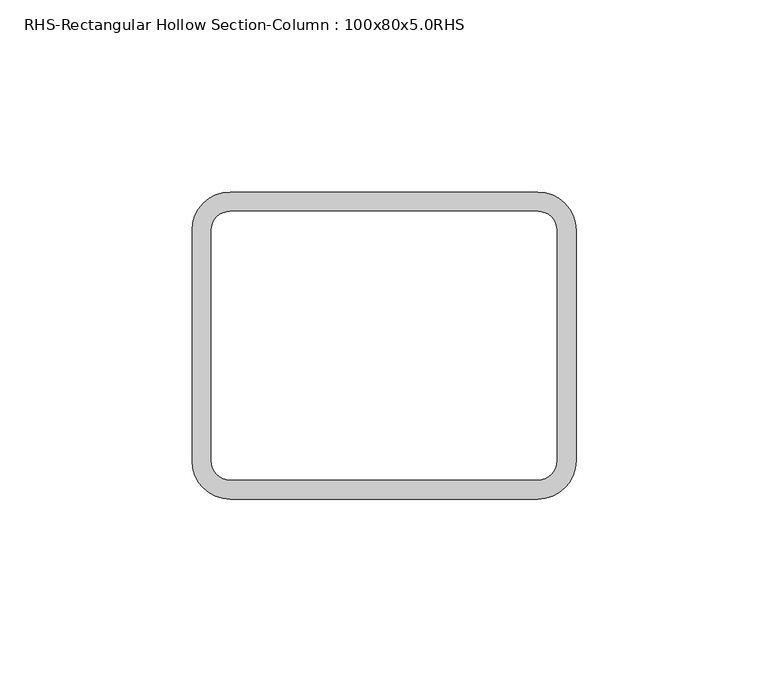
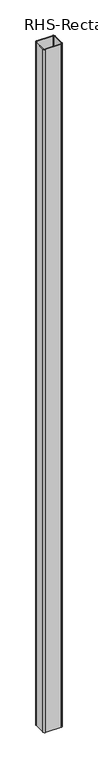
"""IFC4 building model written with IfcOpenShell, lengths in millimetres: column geometry, RHS-Rectangular Hollow Section-Column : 100x80x5.0RHS."""

import ifcopenshell
import ifcopenshell.guid

model = None  # the IFC model being written
_history = None  # IfcOwnerHistory: only IFC2X3 demands one
_inside = {}  # id of a spatial element -> (the spatial element, [elements in it])
_under = {}  # id of a project, library or spatial element -> (it, [spatial elements below it])
_declared = {}  # id of a project -> (the project, [libraries it declares])
_typed = {}  # id of a type object -> (the type object, [elements of that type])
_made_of = {}  # id of a material, layer set ... -> (it, [elements and type objects made of it])


def new_model(schema):
    """Start an empty IFC model of exactly this schema.

    Asked for "IFC4X3", IfcOpenShell would pick the latest addendum, in which some entities
    have other attributes; the version numbers below select the first issue.
    IFC2X3 requires an IfcOwnerHistory on every rooted entity: one is made here for all.
    """
    global model, _history
    if schema == "IFC4X3":
        model = ifcopenshell.file(schema_version=(4, 3, 0, 0))
    else:
        model = ifcopenshell.file(schema=schema)
    _inside.clear()
    _under.clear()
    _declared.clear()
    _typed.clear()
    _made_of.clear()
    _history = None
    if model.schema == "IFC2X3":
        org = make("IfcOrganization", Name="unknown")
        user = make(
            "IfcPersonAndOrganization",
            ThePerson=make("IfcPerson", FamilyName="unknown"),
            TheOrganization=org,
        )
        app = make(
            "IfcApplication",
            ApplicationDeveloper=org,
            Version="unknown",
            ApplicationFullName="unknown",
            ApplicationIdentifier="unknown",
        )
        _history = make(
            "IfcOwnerHistory",
            OwningUser=user,
            OwningApplication=app,
            ChangeAction="ADDED",
            CreationDate=0,
        )
    return model


def make(cls, **values):
    """One entity of the class cls with the attributes given. An attribute that is None is left unset."""
    return model.create_entity(
        cls, **{name: value for name, value in values.items() if value is not None}
    )


def rooted(cls, **values):
    """An entity with a GlobalId (a new one), such as an element, a storey or a relation."""
    return make(cls, GlobalId=ifcopenshell.guid.new(), OwnerHistory=_history, **values)


def si_unit(unit_type, name, prefix=None):
    """IfcSIUnit, for example si_unit("LENGTHUNIT", "METRE", prefix="MILLI")."""
    return make("IfcSIUnit", UnitType=unit_type, Prefix=prefix, Name=name)


def assignment(units):
    """IfcUnitAssignment: the units of a project."""
    return None if units is None else make("IfcUnitAssignment", Units=units)


def point(xyz):
    """IfcCartesianPoint."""
    return None if xyz is None else make("IfcCartesianPoint", Coordinates=xyz)


def direction(xyz):
    """IfcDirection."""
    return None if xyz is None else make("IfcDirection", DirectionRatios=xyz)


def frame(location, z_axis=None, x_axis=None):
    """IfcAxis2Placement3D, a coordinate frame: its origin and axes. An axis left out is left unset."""
    return make(
        "IfcAxis2Placement3D",
        Location=point(location),
        Axis=direction(z_axis),
        RefDirection=direction(x_axis),
    )


def frame_2d(location, x_axis=None):
    """IfcAxis2Placement2D, a coordinate frame in the plane: its origin and x axis."""
    return make(
        "IfcAxis2Placement2D", Location=point(location), RefDirection=direction(x_axis)
    )


def origin():
    """The frame at (0, 0, 0) with its axes left unset."""
    return frame((0.0, 0.0, 0.0))


def place(relative_to, where):
    """IfcLocalPlacement: puts the frame where relative to a parent placement (None: the world)."""
    return make(
        "IfcLocalPlacement", PlacementRelTo=relative_to, RelativePlacement=where
    )


def context(
    kind, dimensions, precision=None, world=None, true_north=None, identifier=None
):
    """IfcGeometricRepresentationContext, for example the 3D "Model" context."""
    return make(
        "IfcGeometricRepresentationContext",
        ContextIdentifier=identifier,
        ContextType=kind,
        CoordinateSpaceDimension=dimensions,
        Precision=precision,
        WorldCoordinateSystem=world,
        TrueNorth=true_north,
    )


def project(units=None, contexts=None):
    """IfcProject with its units and contexts."""
    return rooted(
        "IfcProject",
        Name="project",
        RepresentationContexts=contexts,
        UnitsInContext=assignment(units),
    )


def spatial(cls, under=None, at=None, **own):
    """A site, building, storey or space (cls), placed at a placement, below another one or the project."""
    s = rooted(cls, ObjectPlacement=at, **own)
    if under is not None:
        _under.setdefault(under.id(), (under, []))[1].append(s)
    return s


def polyline(points):
    """IfcPolyline through the points."""
    return make("IfcPolyline", Points=[point(p) for p in points])


def circle_curve(where, radius):
    """IfcCircle in the frame where."""
    return make("IfcCircle", Position=where, Radius=radius)


def trimmed(basis, trim1, trim2, sense, master):
    """IfcTrimmedCurve: the piece of a basis curve between two trims."""
    return make(
        "IfcTrimmedCurve",
        BasisCurve=basis,
        Trim1=trim1,
        Trim2=trim2,
        SenseAgreement=sense,
        MasterRepresentation=master,
    )


def segment(curve, same_sense, transition):
    """IfcCompositeCurveSegment."""
    return make(
        "IfcCompositeCurveSegment",
        Transition=transition,
        SameSense=same_sense,
        ParentCurve=curve,
    )


def composite_curve(segments, self_intersect=None):
    """IfcCompositeCurve: segments joined end to end."""
    return make("IfcCompositeCurve", Segments=segments, SelfIntersect=self_intersect)


def outline(outer, holes=None, kind="AREA"):
    """IfcArbitraryClosedProfileDef: a profile drawn as a closed curve; with holes, ...WithVoids."""
    if holes is None:
        return make("IfcArbitraryClosedProfileDef", ProfileType=kind, OuterCurve=outer)
    return make(
        "IfcArbitraryProfileDefWithVoids",
        ProfileType=kind,
        OuterCurve=outer,
        InnerCurves=holes,
    )


def extrude(swept, where, along, depth):
    """IfcExtrudedAreaSolid: the profile swept, set in the frame where, extruded along a direction by depth."""
    return make(
        "IfcExtrudedAreaSolid",
        SweptArea=swept,
        Position=where,
        ExtrudedDirection=direction(along),
        Depth=depth,
    )


def shape(context_of_items, identifier, shape_type, items):
    """IfcShapeRepresentation: the items that make up one representation, for example the "Body"."""
    return make(
        "IfcShapeRepresentation",
        ContextOfItems=context_of_items,
        RepresentationIdentifier=identifier,
        RepresentationType=shape_type,
        Items=items,
    )


def source(mapping_origin, context_of_items, identifier, shape_type, items):
    """IfcRepresentationMap: a shape defined once, which mapped items show again and again."""
    return make(
        "IfcRepresentationMap",
        MappingOrigin=mapping_origin,
        MappedRepresentation=shape(context_of_items, identifier, shape_type, items),
    )


def transform(
    local_origin,
    x_axis=None,
    y_axis=None,
    z_axis=None,
    scale=None,
    scale2=None,
    scale3=None,
    uniform=True,
):
    """IfcCartesianTransformationOperator3D, or its non-uniform kind. x_axis, y_axis, z_axis: its Axis1, 2, 3."""
    if uniform:
        return make(
            "IfcCartesianTransformationOperator3D",
            Axis1=direction(x_axis),
            Axis2=direction(y_axis),
            LocalOrigin=point(local_origin),
            Scale=scale,
            Axis3=direction(z_axis),
        )
    return make(
        "IfcCartesianTransformationOperator3DnonUniform",
        Axis1=direction(x_axis),
        Axis2=direction(y_axis),
        LocalOrigin=point(local_origin),
        Scale=scale,
        Axis3=direction(z_axis),
        Scale2=scale2,
        Scale3=scale3,
    )


def mapped(mapping_source, mapping_target):
    """IfcMappedItem: shows the shape of a source again, moved by a transform."""
    return make(
        "IfcMappedItem", MappingSource=mapping_source, MappingTarget=mapping_target
    )


def made_of(thing, what):
    """Note that an element or type object is made of a material, layer set ...; save() writes the relation."""
    if what is not None:
        _made_of.setdefault(what.id(), (what, []))[1].append(thing)
    return thing


def element(
    cls,
    number,
    at=None,
    inside=None,
    cuts=None,
    type_object=None,
    material=None,
    context=None,
    identifier="Body",
    shape_type=None,
    held_by="IfcProductDefinitionShape",
    body=None,
    shapes=None,
    **own,
):
    """One element of the class cls, such as IfcWall. Its Tag is "e" and its number.

    at: its placement. inside: the storey or other place that contains it. cuts: it is an
    opening in that element (IfcRelVoidsElement). A single representation is given by context,
    identifier, shape_type and body (its items); several are given by shapes. held_by: the class
    of the entity that holds the representations. save() writes the other relations.
    """
    e = rooted(cls, Tag="e%d" % number, ObjectPlacement=at, **own)
    if body is not None:
        shapes = [shape(context, identifier, shape_type, body)]
    if shapes is not None:
        e.Representation = make(held_by, Representations=shapes)
    if inside is not None:
        _inside.setdefault(inside.id(), (inside, []))[1].append(e)
    if cuts is not None:
        rooted(
            "IfcRelVoidsElement", RelatingBuildingElement=cuts, RelatedOpeningElement=e
        )
    if type_object is not None:
        _typed.setdefault(type_object.id(), (type_object, []))[1].append(e)
    return made_of(e, material)


def aggregate(whole, parts):
    """IfcRelAggregates: a whole, such as a stair, and the parts it consists of."""
    return rooted("IfcRelAggregates", RelatingObject=whole, RelatedObjects=parts)


def save(model, path):
    """Write the relations noted so far, then the file.

    IfcRelAggregates (storeys below a building ...), IfcRelContainedInSpatialStructure (elements
    in a storey), IfcRelDefinesByType, IfcRelAssociatesMaterial and IfcRelDeclares: one each for
    every whole, place, type object, material and project.
    """
    for whole, parts in _under.values():
        aggregate(whole, parts)
    for where, things in _inside.values():
        rooted(
            "IfcRelContainedInSpatialStructure",
            RelatedElements=things,
            RelatingStructure=where,
        )
    for kind, things in _typed.values():
        rooted("IfcRelDefinesByType", RelatedObjects=things, RelatingType=kind)
    for what, things in _made_of.values():
        rooted("IfcRelAssociatesMaterial", RelatedObjects=things, RelatingMaterial=what)
    for by, libraries in _declared.values():
        rooted("IfcRelDeclares", RelatingContext=by, RelatedDefinitions=libraries)
    model.write(path)


def rhs_rectangular_hollow_section_column_100x80x5_0rhs_cb7fef1a(model_context):
    return source(origin(), model_context, "Body", "SweptSolid", [
        extrude(outline(composite_curve([segment(trimmed(circle_curve(frame_2d((40.0, 30.0)), 10.0), [point((40.0, 40.0))], [point((50.0, 30.0))], False, "CARTESIAN"), True, "CONTINUOUS"), segment(polyline([(50.0, 30.0), (50.0, -30.0)]), True, "CONTINUOUS"), segment(trimmed(circle_curve(frame_2d((40.0, -30.0)), 10.0), [point((50.0, -30.0))], [point((40.0, -40.0))], False, "CARTESIAN"), True, "CONTINUOUS"), segment(polyline([(40.0, -40.0), (-40.0, -40.0)]), True, "CONTINUOUS"), segment(trimmed(circle_curve(frame_2d((-40.0, -30.0)), 10.0), [point((-40.0, -40.0))], [point((-50.0, -30.0))], False, "CARTESIAN"), True, "CONTINUOUS"), segment(polyline([(-50.0, -30.0), (-50.0, 30.0)]), True, "CONTINUOUS"), segment(trimmed(circle_curve(frame_2d((-40.0, 30.0)), 10.0), [point((-50.0, 30.0))], [point((-40.0, 40.0))], False, "CARTESIAN"), True, "CONTINUOUS"), segment(polyline([(-40.0, 40.0), (40.0, 40.0)]), True, "CONTINUOUS")], self_intersect=False), holes=[composite_curve([segment(polyline([(40.0, 35.0), (-40.0, 35.0)]), True, "CONTINUOUS"), segment(trimmed(circle_curve(frame_2d((-40.0, 30.0)), 5.0), [point((-40.0, 35.0))], [point((-45.0, 30.0))], True, "CARTESIAN"), True, "CONTINUOUS"), segment(polyline([(-45.0, 30.0), (-45.0, -30.0)]), True, "CONTINUOUS"), segment(trimmed(circle_curve(frame_2d((-40.0, -30.0)), 5.0), [point((-45.0, -30.0))], [point((-40.0, -35.0))], True, "CARTESIAN"), True, "CONTINUOUS"), segment(polyline([(-40.0, -35.0), (40.0, -35.0)]), True, "CONTINUOUS"), segment(trimmed(circle_curve(frame_2d((40.0, -30.0)), 5.0), [point((40.0, -35.0))], [point((45.0, -30.0))], True, "CARTESIAN"), True, "CONTINUOUS"), segment(polyline([(45.0, -30.0), (45.0, 30.0)]), True, "CONTINUOUS"), segment(trimmed(circle_curve(frame_2d((40.0, 30.0)), 5.0), [point((45.0, 30.0))], [point((40.0, 35.0))], True, "CARTESIAN"), True, "CONTINUOUS")], self_intersect=False)]), frame((0.0, 0.0, 14910.0), z_axis=(0.0, 0.0, 1.0), x_axis=(1.0, 0.0, 0.0)), (0.0, 0.0, 1.0), 3750.0),
    ])


if __name__ == "__main__":
    model = new_model("IFC4")
    model_context = context("Model", 3, world=origin())
    ifc_project = project(units=[si_unit("LENGTHUNIT", "METRE", prefix="MILLI")], contexts=[model_context])
    site = spatial("IfcSite", under=ifc_project)
    building = spatial("IfcBuilding", under=site)
    placement = place(None, origin())
    rhs_rectangular_hollow_section_column_100x80x5_0rhs_shape = rhs_rectangular_hollow_section_column_100x80x5_0rhs_cb7fef1a(model_context)
    element("IfcColumn", 1, ObjectType="RHS-Rectangular Hollow Section-Column : 100x80x5.0RHS", at=placement, inside=building, context=model_context, shape_type="MappedRepresentation", body=[
        mapped(rhs_rectangular_hollow_section_column_100x80x5_0rhs_shape, transform((0.0, 0.0, 0.0), x_axis=(1.0, 0.0, 0.0), y_axis=(0.0, 1.0, 0.0), z_axis=(0.0, 0.0, 1.0))),
    ])
    save(model, "model.ifc")
